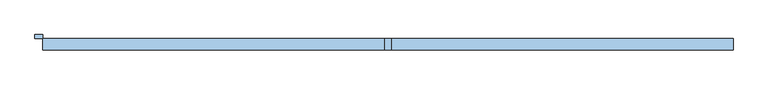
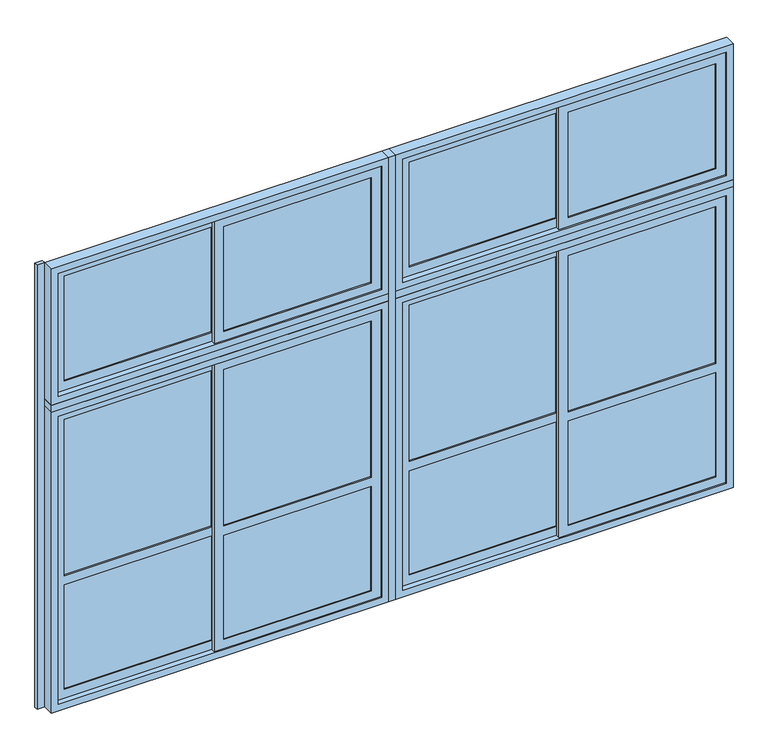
"""IFC4 building model written with IfcOpenShell, lengths in millimetres: window geometry, A11 Ventana_Corrediza_PC_4 hojas : A11.3 Ventana_Corrediza_PC_4 hojas 450x310 2."""

from ifc_helpers import new_model, si_unit, frame, origin, origin_with_axes, place, context, project, spatial, polyline, outline, extrude, source, transform, mapped, element, save


def window_36055f7e(model_context):
    return source(origin(), model_context, "Body", "SweptSolid", [
        extrude(outline(polyline([(-1169.0, 84.5), (-1169.0, 68.5), (-2142.0, 68.5), (-2142.0, 84.5), (-1169.0, 84.5)])), frame((0.0, 0.0, 108.0), z_axis=(0.0, 0.0, 1.0), x_axis=(1.0, 0.0, 0.0)), (0.0, 0.0, 1.0), 728.0),
        extrude(outline(polyline([(-133.0, 56.5), (-133.0, 40.5), (-1106.0, 40.5), (-1106.0, 56.5), (-133.0, 56.5)])), frame((0.0, 0.0, 108.0), z_axis=(0.0, 0.0, 1.0), x_axis=(1.0, 0.0, 0.0)), (0.0, 0.0, 1.0), 728.0),
        extrude(outline(polyline([(-1169.0, 80.9230281), (-1169.0, 72.0769719), (-2142.0, 72.0769719), (-2142.0, 80.9230281), (-1169.0, 80.9230281)])), frame((0.0, 0.0, 2258.0), z_axis=(0.0, 0.0, 1.0), x_axis=(1.0, 0.0, 0.0)), (0.0, 0.0, 1.0), 734.0),
        extrude(outline(polyline([(-1169.0, 80.9230281), (-1169.0, 72.0769719), (-2142.0, 72.0769719), (-2142.0, 80.9230281), (-1169.0, 80.9230281)])), frame((0.0, 0.0, 900.0), z_axis=(0.0, 0.0, 1.0), x_axis=(1.0, 0.0, 0.0)), (0.0, 0.0, 1.0), 1092.0),
        extrude(outline(polyline([(-133.0, 52.9230281), (-133.0, 44.0769719), (-1106.0, 44.0769719), (-1106.0, 52.9230281), (-133.0, 52.9230281)])), frame((0.0, 0.0, 2258.0), z_axis=(0.0, 0.0, 1.0), x_axis=(1.0, 0.0, 0.0)), (0.0, 0.0, 1.0), 734.0),
        extrude(outline(polyline([(-133.0, 52.9230281), (-133.0, 44.0769719), (-1106.0, 44.0769719), (-1106.0, 52.9230281), (-133.0, 52.9230281)])), frame((0.0, 0.0, 900.0), z_axis=(0.0, 0.0, 1.0), x_axis=(1.0, 0.0, 0.0)), (0.0, 0.0, 1.0), 1092.0),
        extrude(outline(polyline([(3055.0, -2205.0), (2195.0, -2205.0), (2195.0, -1106.0), (3055.0, -1106.0), (3055.0, -2205.0)]), holes=[polyline([(2992.0, -2142.0), (2992.0, -1169.0), (2258.0, -1169.0), (2258.0, -2142.0), (2992.0, -2142.0)])]), frame((0.0, 62.5, 0.0), z_axis=(0.0, 1.0, 0.0), x_axis=(0.0, 0.0, 1.0)), (0.0, 0.0, 1.0), 28.0),
        extrude(outline(polyline([(2055.0, -2205.0), (45.0, -2205.0), (45.0, -1106.0), (2055.0, -1106.0), (2055.0, -2205.0)]), holes=[polyline([(1992.0, -2142.0), (1992.0, -1169.0), (900.0, -1169.0), (900.0, -2142.0), (1992.0, -2142.0)]), polyline([(836.0, -2142.0), (836.0, -1169.0), (108.0, -1169.0), (108.0, -2142.0), (836.0, -2142.0)])]), frame((0.0, 62.5, 0.0), z_axis=(0.0, 1.0, 0.0), x_axis=(0.0, 0.0, 1.0)), (0.0, 0.0, 1.0), 28.0),
        extrude(outline(polyline([(3055.0, -1169.0), (2195.0, -1169.0), (2195.0, -70.0), (3055.0, -70.0), (3055.0, -1169.0)]), holes=[polyline([(2992.0, -1106.0), (2992.0, -133.0), (2258.0, -133.0), (2258.0, -1106.0), (2992.0, -1106.0)])]), frame((0.0, 34.5, 0.0), z_axis=(0.0, 1.0, 0.0), x_axis=(0.0, 0.0, 1.0)), (0.0, 0.0, 1.0), 28.0),
        extrude(outline(polyline([(2055.0, -1169.0), (45.0, -1169.0), (45.0, -70.0), (2055.0, -70.0), (2055.0, -1169.0)]), holes=[polyline([(1992.0, -1106.0), (1992.0, -133.0), (900.0, -133.0), (900.0, -1106.0), (1992.0, -1106.0)]), polyline([(836.0, -1106.0), (836.0, -133.0), (108.0, -133.0), (108.0, -1106.0), (836.0, -1106.0)])]), frame((0.0, 34.5, 0.0), z_axis=(0.0, 1.0, 0.0), x_axis=(0.0, 0.0, 1.0)), (0.0, 0.0, 1.0), 28.0),
        extrude(outline(polyline([(1106.0, 84.5), (1106.0, 68.5), (133.0, 68.5), (133.0, 84.5), (1106.0, 84.5)])), frame((0.0, 0.0, 108.0), z_axis=(0.0, 0.0, 1.0), x_axis=(1.0, 0.0, 0.0)), (0.0, 0.0, 1.0), 728.0),
        extrude(outline(polyline([(2142.0, 56.5), (2142.0, 40.5), (1169.0, 40.5), (1169.0, 56.5), (2142.0, 56.5)])), frame((0.0, 0.0, 108.0), z_axis=(0.0, 0.0, 1.0), x_axis=(1.0, 0.0, 0.0)), (0.0, 0.0, 1.0), 728.0),
        extrude(outline(polyline([(1106.0, 80.9230281), (1106.0, 72.0769719), (133.0, 72.0769719), (133.0, 80.9230281), (1106.0, 80.9230281)])), frame((0.0, 0.0, 2258.0), z_axis=(0.0, 0.0, 1.0), x_axis=(1.0, 0.0, 0.0)), (0.0, 0.0, 1.0), 734.0),
        extrude(outline(polyline([(1106.0, 80.9230281), (1106.0, 72.0769719), (133.0, 72.0769719), (133.0, 80.9230281), (1106.0, 80.9230281)])), frame((0.0, 0.0, 900.0), z_axis=(0.0, 0.0, 1.0), x_axis=(1.0, 0.0, 0.0)), (0.0, 0.0, 1.0), 1092.0),
        extrude(outline(polyline([(2142.0, 52.9230281), (2142.0, 44.0769719), (1169.0, 44.0769719), (1169.0, 52.9230281), (2142.0, 52.9230281)])), frame((0.0, 0.0, 2258.0), z_axis=(0.0, 0.0, 1.0), x_axis=(1.0, 0.0, 0.0)), (0.0, 0.0, 1.0), 734.0),
        extrude(outline(polyline([(2142.0, 52.9230281), (2142.0, 44.0769719), (1169.0, 44.0769719), (1169.0, 52.9230281), (2142.0, 52.9230281)])), frame((0.0, 0.0, 900.0), z_axis=(0.0, 0.0, 1.0), x_axis=(1.0, 0.0, 0.0)), (0.0, 0.0, 1.0), 1092.0),
        extrude(outline(polyline([(45.0, 70.0), (45.0, 1169.0), (2055.0, 1169.0), (2055.0, 70.0), (45.0, 70.0)]), holes=[polyline([(900.0, 133.0), (1992.0, 133.0), (1992.0, 1106.0), (900.0, 1106.0), (900.0, 133.0)]), polyline([(108.0, 133.0), (836.0, 133.0), (836.0, 1106.0), (108.0, 1106.0), (108.0, 133.0)])]), frame((0.0, 62.5, 0.0), z_axis=(0.0, 1.0, 0.0), x_axis=(0.0, 0.0, 1.0)), (0.0, 0.0, 1.0), 28.0),
        extrude(outline(polyline([(3055.0, 70.0), (2195.0, 70.0), (2195.0, 1169.0), (3055.0, 1169.0), (3055.0, 70.0)]), holes=[polyline([(2258.0, 133.0), (2992.0, 133.0), (2992.0, 1106.0), (2258.0, 1106.0), (2258.0, 133.0)])]), frame((0.0, 62.5, 0.0), z_axis=(0.0, 1.0, 0.0), x_axis=(0.0, 0.0, 1.0)), (0.0, 0.0, 1.0), 28.0),
        extrude(outline(polyline([(2055.0, 2205.0), (2055.0, 1106.0), (45.0, 1106.0), (45.0, 2205.0), (2055.0, 2205.0)]), holes=[polyline([(1992.0, 1169.0), (1992.0, 2142.0), (900.0, 2142.0), (900.0, 1169.0), (1992.0, 1169.0)]), polyline([(836.0, 1169.0), (836.0, 2142.0), (108.0, 2142.0), (108.0, 1169.0), (836.0, 1169.0)])]), frame((0.0, 34.5, 0.0), z_axis=(0.0, 1.0, 0.0), x_axis=(0.0, 0.0, 1.0)), (0.0, 0.0, 1.0), 28.0),
        extrude(outline(polyline([(2195.0, 1106.0), (2195.0, 2205.0), (3055.0, 2205.0), (3055.0, 1106.0), (2195.0, 1106.0)]), holes=[polyline([(2992.0, 1169.0), (2992.0, 2142.0), (2258.0, 2142.0), (2258.0, 1169.0), (2992.0, 1169.0)])]), frame((0.0, 34.5, 0.0), z_axis=(0.0, 1.0, 0.0), x_axis=(0.0, 0.0, 1.0)), (0.0, 0.0, 1.0), 28.0),
        extrude(outline(polyline([(2100.0, 25.0), (0.0, 25.0), (0.0, 2250.0), (2100.0, 2250.0), (2100.0, 25.0)]), holes=[polyline([(2055.0, 70.0), (2055.0, 2205.0), (45.0, 2205.0), (45.0, 70.0), (2055.0, 70.0)])]), frame((0.0, 25.0, 0.0), z_axis=(0.0, 1.0, 0.0), x_axis=(0.0, 0.0, 1.0)), (0.0, 0.0, 1.0), 75.0),
        extrude(outline(polyline([(2100.0, -2250.0), (0.0, -2250.0), (0.0, -25.0), (2100.0, -25.0), (2100.0, -2250.0)]), holes=[polyline([(2055.0, -2205.0), (2055.0, -70.0), (45.0, -70.0), (45.0, -2205.0), (2055.0, -2205.0)])]), frame((0.0, 25.0, 0.0), z_axis=(0.0, 1.0, 0.0), x_axis=(0.0, 0.0, 1.0)), (0.0, 0.0, 1.0), 75.0),
        extrude(outline(polyline([(3100.0, 25.0), (2150.0, 25.0), (2150.0, 2250.0), (3100.0, 2250.0), (3100.0, 25.0)]), holes=[polyline([(3055.0, 70.0), (3055.0, 2205.0), (2195.0, 2205.0), (2195.0, 70.0), (3055.0, 70.0)])]), frame((0.0, 25.0, 0.0), z_axis=(0.0, 1.0, 0.0), x_axis=(0.0, 0.0, 1.0)), (0.0, 0.0, 1.0), 75.0),
        extrude(outline(polyline([(2150.0, -2250.0), (2150.0, -25.0), (3100.0, -25.0), (3100.0, -2250.0), (2150.0, -2250.0)]), holes=[polyline([(3055.0, -2205.0), (3055.0, -70.0), (2195.0, -70.0), (2195.0, -2205.0), (3055.0, -2205.0)])]), frame((0.0, 25.0, 0.0), z_axis=(0.0, 1.0, 0.0), x_axis=(0.0, 0.0, 1.0)), (0.0, 0.0, 1.0), 75.0),
        extrude(outline(polyline([(2250.0, 100.0), (2250.0, 25.0), (25.0, 25.0), (25.0, 100.0), (2250.0, 100.0)])), frame((0.0, 0.0, 2100.0), z_axis=(0.0, 0.0, 1.0), x_axis=(1.0, 0.0, 0.0)), (0.0, 0.0, 1.0), 50.0),
        extrude(outline(polyline([(-25.0, 100.0), (-25.0, 25.0), (-2250.0, 25.0), (-2250.0, 100.0), (-25.0, 100.0)])), frame((0.0, 0.0, 2100.0), z_axis=(0.0, 0.0, 1.0), x_axis=(1.0, 0.0, 0.0)), (0.0, 0.0, 1.0), 50.0),
        extrude(outline(polyline([(25.0, 100.0), (25.0, 25.0), (-25.0, 25.0), (-25.0, 100.0), (25.0, 100.0)])), origin_with_axes(), (0.0, 0.0, 1.0), 3100.0),
        extrude(outline(polyline([(-2250.0, 125.0), (-2250.0, 100.0), (-2300.0, 100.0), (-2300.0, 125.0), (-2250.0, 125.0)])), origin_with_axes(), (0.0, 0.0, 1.0), 3100.0),
    ])


if __name__ == "__main__":
    model = new_model("IFC4")
    model_context = context("Model", 3, world=origin())
    ifc_project = project(units=[si_unit("LENGTHUNIT", "METRE", prefix="MILLI")], contexts=[model_context])
    site = spatial("IfcSite", under=ifc_project)
    building = spatial("IfcBuilding", under=site)
    placement = place(None, origin())
    window_shape = window_36055f7e(model_context)
    element("IfcWindow", 1, ObjectType="A11 Ventana_Corrediza_PC_4 hojas : A11.3 Ventana_Corrediza_PC_4 hojas 450x310 2", at=placement, inside=building, context=model_context, shape_type="MappedRepresentation", body=[
        mapped(window_shape, transform((0.0, 0.0, 0.0), x_axis=(1.0, 0.0, 0.0), y_axis=(0.0, 1.0, 0.0), z_axis=(0.0, 0.0, 1.0))),
    ])
    save(model, "model.ifc")
